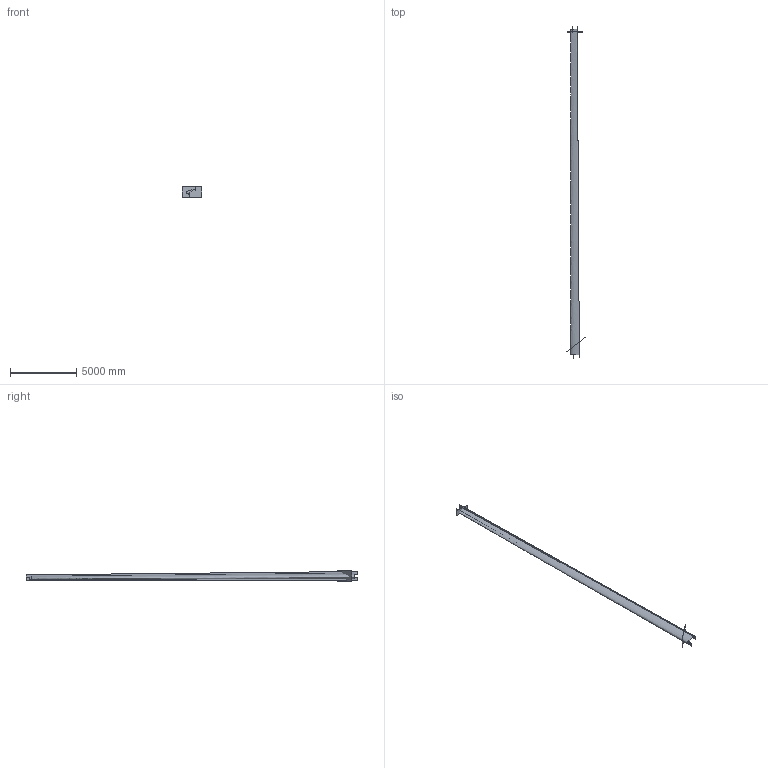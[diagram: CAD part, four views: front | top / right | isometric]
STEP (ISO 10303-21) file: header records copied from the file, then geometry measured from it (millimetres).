
FILE_DESCRIPTION((''),'2;1');
FILE_NAME('','2022-03-10T05:28:59',(''),(''),'','CADfix','');
FILE_SCHEMA(('AUTOMOTIVE_DESIGN { 1 0 10303 214 1 1 1 1 }'));
Length unit declared in the file: inch
Bounding box: 1472.69 x 25059.59 x 811.52 mm (x, y, z)
Surface area: 52048472.3 mm2 (no closed solid volume)
Topology: 0 solids, 0 shells, 7 faces, 28 edges, 28 vertices
Faces by surface type: bspline 7
Entity records: 19318 total; most frequent: CARTESIAN_POINT 19292, B_SPLINE_SURFACE_WITH_KNOTS 7, DIMENSIONAL_EXPONENTS 2, PLANE_ANGLE_MEASURE_WITH_UNIT 1, LENGTH_MEASURE_WITH_UNIT 1, UNCERTAINTY_MEASURE_WITH_UNIT 1, GEOMETRIC_SET 1, GEOMETRICALLY_BOUNDED_SURFACE_SHAPE_REPRESENTATION 1
